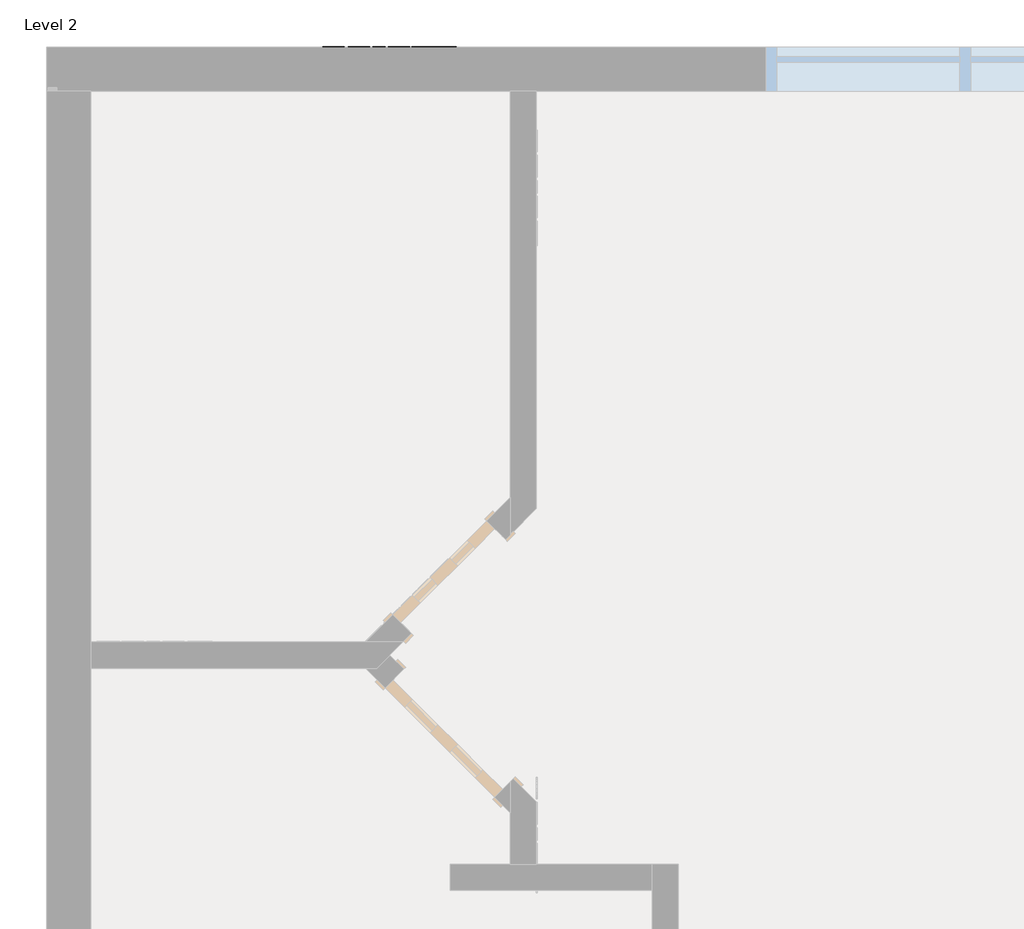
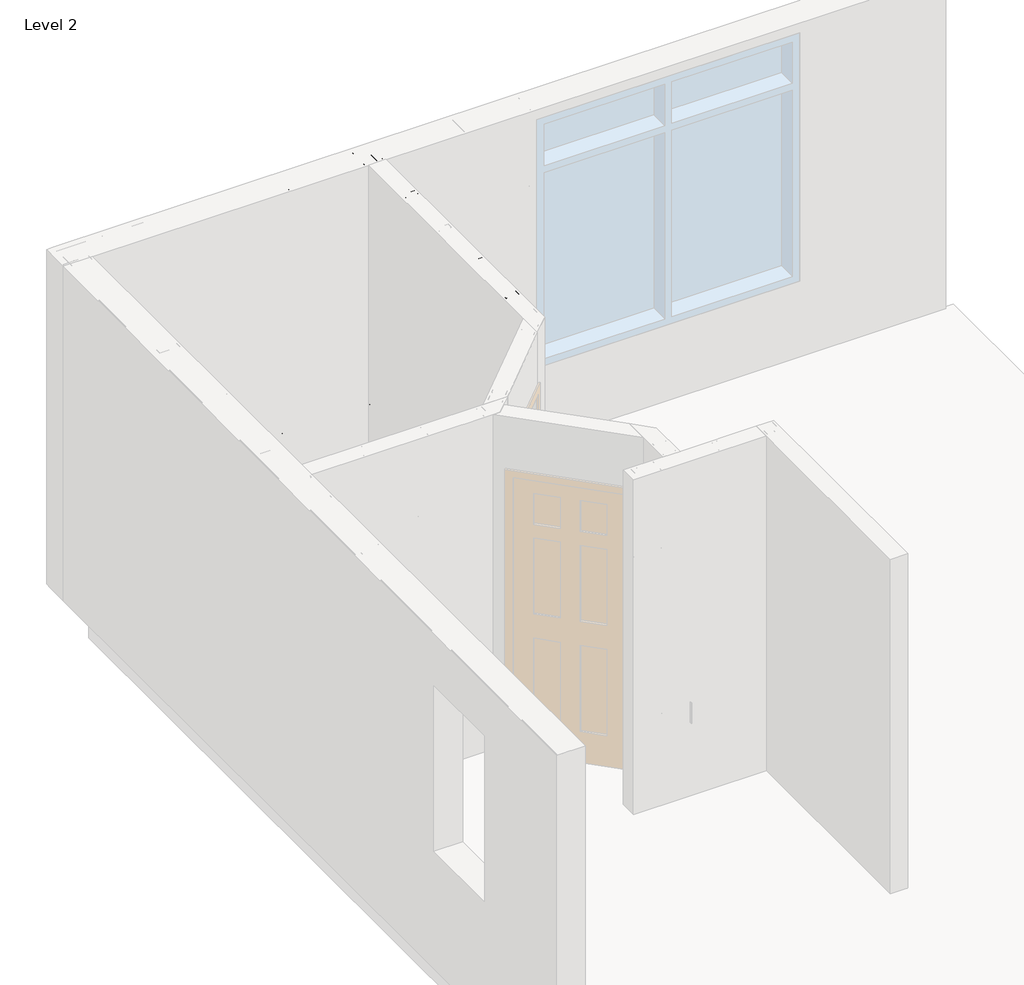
# One storey, part 35 of 46: 8 columns, 1 fastener.
"""IFC4 building model written with IfcOpenShell, lengths in millimetres."""

from ifc_helpers import new_model, si_unit, point, frame, origin, place, context, project, spatial, circle_curve, ellipse_curve, trimmed, transform, mapped, element, save
from ifc_brep_helpers import plane_surface, extruded_surface, advanced_brep
from components import column_550nf150_43_e978d052, panellabel_521c0b09

model = new_model("IFC4")

# Units and contexts
model_context = context("Model", 3, world=origin())
ifc_project = project(units=[si_unit("LENGTHUNIT", "METRE", prefix="MILLI")], contexts=[model_context])

# Site, building, storey
site = spatial("IfcSite", under=ifc_project)
building = spatial("IfcBuilding", under=site)
storey = spatial("IfcBuildingStorey", under=building, Name="Level 2", Elevation=3060.7)

# Columns
placement = place(None, origin())
element("IfcColumn", 1, ObjectType="BIMSF-SSMA-S-Column : 350NF150-33", at=placement, inside=storey, context=model_context, shape_type="AdvancedBrep", body=[
    advanced_brep(
    [(-13168.4413349, 13865.352221, 3061.5929687), (-13079.5413349, 13865.352221, 3061.5929687), (-13079.5413349, 13827.252221, 3061.5929687), (-13085.1988507, 13827.252221, 3061.5929687), (-13085.1988507, 13828.1345367, 3061.5929687), (-13080.4236507, 13828.1345367, 3061.5929687), (-13080.4236507, 13864.4699052, 3061.5929687), (-13167.5590191, 13864.4699052, 3061.5929687), (-13167.5590191, 13828.1345367, 3061.5929687), (-13162.7838191, 13828.1345367, 3061.5929687), (-13162.7838191, 13827.252221, 3061.5929687), (-13168.4413349, 13827.252221, 3061.5929687), (-13168.4413349, 13865.352221, 5523.6070313), (-13079.5413349, 13865.352221, 5523.6070313), (-13111.2913349, 13865.352221, 3671.1929688), (-13136.6913349, 13865.352221, 3671.1929688), (-13111.2913349, 13865.352221, 4890.3929687), (-13136.6913349, 13865.352221, 4890.3929687), (-13079.5413349, 13827.252221, 5523.6070313), (-13085.1988507, 13827.252221, 5523.6070313), (-13085.1988507, 13828.1345367, 5523.6070313), (-13080.4236507, 13828.1345367, 5523.6070313), (-13080.4236507, 13864.4699052, 5523.6070313), (-13167.5590191, 13864.4699052, 5523.6070313), (-13136.6913349, 13864.4699052, 3671.1929688), (-13111.2913349, 13864.4699052, 3671.1929688), (-13136.6913349, 13864.4699052, 4890.3929687), (-13111.2913349, 13864.4699052, 4890.3929687), (-13167.5590191, 13828.1345367, 5523.6070313), (-13162.7838191, 13828.1345367, 5523.6070313), (-13162.7838191, 13827.252221, 5523.6070313), (-13168.4413349, 13827.252221, 5523.6070313)],
    [
        (0, 1),
        (1, 2),
        (2, 3),
        (3, 4),
        (4, 5),
        (5, 6),
        (6, 7),
        (7, 8),
        (8, 9),
        (9, 10),
        (10, 11),
        (11, 0),
        (0, 12),
        (12, 13),
        (13, 1),
        (14, 15, circle_curve(frame((-13123.9913349, 13865.352221, 3671.1929688), z_axis=(0.0, -1.0, 0.0), x_axis=(1.0, 0.0, 0.0)), 12.7)),
        (15, 14, circle_curve(frame((-13123.9913349, 13865.352221, 3671.1929688), z_axis=(0.0, -1.0, 0.0), x_axis=(1.0, 0.0, 0.0)), 12.7)),
        (16, 17, circle_curve(frame((-13123.9913349, 13865.352221, 4890.3929687), z_axis=(0.0, -1.0, 0.0), x_axis=(1.0, 0.0, 0.0)), 12.7)),
        (17, 16, circle_curve(frame((-13123.9913349, 13865.352221, 4890.3929687), z_axis=(0.0, -1.0, 0.0), x_axis=(1.0, 0.0, 0.0)), 12.7)),
        (13, 18),
        (18, 2),
        (18, 19),
        (19, 3),
        (19, 20),
        (20, 4),
        (20, 21),
        (21, 5),
        (21, 22),
        (22, 6),
        (22, 23),
        (23, 7),
        (24, 25, circle_curve(frame((-13123.9913349, 13864.4699052, 3671.1929688), z_axis=(0.0, 1.0, 0.0), x_axis=(1.0, 0.0, 0.0)), 12.7)),
        (25, 24, circle_curve(frame((-13123.9913349, 13864.4699052, 3671.1929688), z_axis=(0.0, 1.0, 0.0), x_axis=(1.0, 0.0, 0.0)), 12.7)),
        (26, 27, circle_curve(frame((-13123.9913349, 13864.4699052, 4890.3929687), z_axis=(0.0, 1.0, 0.0), x_axis=(1.0, 0.0, 0.0)), 12.7)),
        (27, 26, circle_curve(frame((-13123.9913349, 13864.4699052, 4890.3929687), z_axis=(0.0, 1.0, 0.0), x_axis=(1.0, 0.0, 0.0)), 12.7)),
        (23, 28),
        (28, 8),
        (28, 29),
        (29, 9),
        (29, 30),
        (30, 10),
        (30, 31),
        (31, 11),
        (31, 12),
        (24, 15),
        (14, 25),
        (26, 17),
        (16, 27),
    ],
    [
        plane_surface(frame((-13168.4413349, 13865.352221, 3061.5929687), z_axis=(0.0, 0.0, -1.0), x_axis=(0.0, 1.0, 0.0))),
        plane_surface(frame((-13079.5413349, 13865.352221, 5523.6070313), z_axis=(0.0, 1.0, 0.0), x_axis=(0.0, 0.0, -1.0))),
        plane_surface(frame((-13079.5413349, 13827.252221, 5523.6070313), z_axis=(1.0, 0.0, 0.0), x_axis=(0.0, 0.0, -1.0))),
        plane_surface(frame((-13085.1988507, 13827.252221, 5523.6070313), z_axis=(0.0, -1.0, 0.0), x_axis=(0.0, 0.0, -1.0))),
        plane_surface(frame((-13085.1988507, 13828.1345367, 5523.6070313), z_axis=(-1.0, 0.0, 0.0), x_axis=(0.0, 0.0, -1.0))),
        plane_surface(frame((-13080.4236507, 13828.1345367, 5523.6070313), z_axis=(0.0, 1.0, 0.0), x_axis=(0.0, 0.0, -1.0))),
        plane_surface(frame((-13080.4236507, 13864.4699052, 5523.6070313), z_axis=(-1.0, 0.0, 0.0), x_axis=(0.0, 0.0, -1.0))),
        plane_surface(frame((-13167.5590191, 13864.4699052, 5523.6070313), z_axis=(0.0, -1.0, 0.0), x_axis=(0.0, 0.0, -1.0))),
        plane_surface(frame((-13167.5590191, 13828.1345367, 5523.6070313), z_axis=(1.0, 0.0, 0.0), x_axis=(0.0, 0.0, -1.0))),
        plane_surface(frame((-13162.7838191, 13828.1345367, 5523.6070313), z_axis=(0.0, 1.0, 0.0), x_axis=(0.0, 0.0, -1.0))),
        plane_surface(frame((-13162.7838191, 13827.252221, 5523.6070313), z_axis=(1.0, 0.0, 0.0), x_axis=(0.0, 0.0, -1.0))),
        plane_surface(frame((-13168.4413349, 13827.252221, 5523.6070313), z_axis=(0.0, -1.0, 0.0), x_axis=(0.0, 0.0, -1.0))),
        plane_surface(frame((-13168.4413349, 13865.352221, 5523.6070313), z_axis=(-1.0, 0.0, 0.0), x_axis=(0.0, 0.0, -1.0))),
        plane_surface(frame((-13168.4413349, 13865.352221, 5523.6070313), z_axis=(0.0, 0.0, 1.0), x_axis=(0.0, -1.0, 0.0))),
        extruded_surface(trimmed(ellipse_curve(frame((-13123.9913349, 11384.2881585, 3671.1929688), z_axis=(0.0, 1.0, 0.0), x_axis=(1.0, 0.0, 0.0)), 12.7, 12.7), [point((-13136.6913349, 11384.2881585, 3671.1929688))], [point((-13111.2913349, 11384.2881585, 3671.1929688))], True, "CARTESIAN"), (0.0, -4924.028125, 0.0), 4924.028125),
        extruded_surface(trimmed(ellipse_curve(frame((-13123.9913349, 11384.2881585, 3671.1929688), z_axis=(0.0, 1.0, 0.0), x_axis=(1.0, 0.0, 0.0)), 12.7, 12.7), [point((-13111.2913349, 11384.2881585, 3671.1929688))], [point((-13136.6913349, 11384.2881585, 3671.1929688))], True, "CARTESIAN"), (0.0, -4924.028125, 0.0), 4924.028125),
        extruded_surface(trimmed(ellipse_curve(frame((-13123.9913349, 11384.2881585, 4890.3929687), z_axis=(0.0, 1.0, 0.0), x_axis=(1.0, 0.0, 0.0)), 12.7, 12.7), [point((-13136.6913349, 11384.2881585, 4890.3929687))], [point((-13111.2913349, 11384.2881585, 4890.3929687))], True, "CARTESIAN"), (0.0, -4924.028125, 0.0), 4924.028125),
        extruded_surface(trimmed(ellipse_curve(frame((-13123.9913349, 11384.2881585, 4890.3929687), z_axis=(0.0, 1.0, 0.0), x_axis=(1.0, 0.0, 0.0)), 12.7, 12.7), [point((-13111.2913349, 11384.2881585, 4890.3929687))], [point((-13136.6913349, 11384.2881585, 4890.3929687))], True, "CARTESIAN"), (0.0, -4924.028125, 0.0), 4924.028125),
    ],
    [
        (0, [[1, 2, 3, 4, 5, 6, 7, 8, 9, 10, 11, 12]]),
        (1, [[-1, 13, 14, 15], [16, 17], [18, 19]]),
        (2, [[-2, -15, 20, 21]]),
        (3, [[-3, -21, 22, 23]]),
        (4, [[-4, -23, 24, 25]]),
        (5, [[-5, -25, 26, 27]]),
        (6, [[-6, -27, 28, 29]]),
        (7, [[-7, -29, 30, 31], [32, 33], [34, 35]]),
        (8, [[-8, -31, 36, 37]]),
        (9, [[-9, -37, 38, 39]]),
        (10, [[-10, -39, 40, 41]]),
        (11, [[-11, -41, 42, 43]]),
        (12, [[-12, -43, 44, -13]]),
        (13, [[-14, -44, -42, -40, -38, -36, -30, -28, -26, -24, -22, -20]]),
        (14, [[45, -16, 46, -32]]),
        (15, [[-45, -33, -46, -17]]),
        (16, [[47, -18, 48, -34]]),
        (17, [[-47, -35, -48, -19]]),
    ],
),
])
element("IfcColumn", 2, ObjectType="BIMSF-SSMA-S-Column : 350NF150-33", at=placement, inside=storey, context=model_context, shape_type="AdvancedBrep", body=[
    advanced_brep(
    [(-13168.4413349, 13478.002221, 3061.5929687), (-13079.5413349, 13478.002221, 3061.5929687), (-13079.5413349, 13439.902221, 3061.5929687), (-13085.1988507, 13439.902221, 3061.5929687), (-13085.1988507, 13440.7845367, 3061.5929687), (-13080.4236507, 13440.7845367, 3061.5929687), (-13080.4236507, 13477.1199052, 3061.5929687), (-13167.5590191, 13477.1199052, 3061.5929687), (-13167.5590191, 13440.7845367, 3061.5929687), (-13162.7838191, 13440.7845367, 3061.5929687), (-13162.7838191, 13439.902221, 3061.5929687), (-13168.4413349, 13439.902221, 3061.5929687), (-13168.4413349, 13478.002221, 5523.6070313), (-13079.5413349, 13478.002221, 5523.6070313), (-13111.2913349, 13478.002221, 3671.1929688), (-13136.6913349, 13478.002221, 3671.1929688), (-13111.2913349, 13478.002221, 4890.3929687), (-13136.6913349, 13478.002221, 4890.3929687), (-13079.5413349, 13439.902221, 5523.6070313), (-13085.1988507, 13439.902221, 5523.6070313), (-13085.1988507, 13440.7845367, 5523.6070313), (-13080.4236507, 13440.7845367, 5523.6070313), (-13080.4236507, 13477.1199052, 5523.6070313), (-13167.5590191, 13477.1199052, 5523.6070313), (-13136.6913349, 13477.1199052, 3671.1929688), (-13111.2913349, 13477.1199052, 3671.1929688), (-13136.6913349, 13477.1199052, 4890.3929687), (-13111.2913349, 13477.1199052, 4890.3929687), (-13167.5590191, 13440.7845367, 5523.6070313), (-13162.7838191, 13440.7845367, 5523.6070313), (-13162.7838191, 13439.902221, 5523.6070313), (-13168.4413349, 13439.902221, 5523.6070313)],
    [
        (0, 1),
        (1, 2),
        (2, 3),
        (3, 4),
        (4, 5),
        (5, 6),
        (6, 7),
        (7, 8),
        (8, 9),
        (9, 10),
        (10, 11),
        (11, 0),
        (0, 12),
        (12, 13),
        (13, 1),
        (14, 15, circle_curve(frame((-13123.9913349, 13478.002221, 3671.1929687), z_axis=(0.0, -1.0, 0.0), x_axis=(1.0, 0.0, 0.0)), 12.7)),
        (15, 14, circle_curve(frame((-13123.9913349, 13478.002221, 3671.1929687), z_axis=(0.0, -1.0, 0.0), x_axis=(1.0, 0.0, 0.0)), 12.7)),
        (16, 17, circle_curve(frame((-13123.9913349, 13478.002221, 4890.3929687), z_axis=(0.0, -1.0, 0.0), x_axis=(1.0, 0.0, 0.0)), 12.7)),
        (17, 16, circle_curve(frame((-13123.9913349, 13478.002221, 4890.3929687), z_axis=(0.0, -1.0, 0.0), x_axis=(1.0, 0.0, 0.0)), 12.7)),
        (13, 18),
        (18, 2),
        (18, 19),
        (19, 3),
        (19, 20),
        (20, 4),
        (20, 21),
        (21, 5),
        (21, 22),
        (22, 6),
        (22, 23),
        (23, 7),
        (24, 25, circle_curve(frame((-13123.9913349, 13477.1199052, 3671.1929688), z_axis=(0.0, 1.0, 0.0), x_axis=(1.0, 0.0, 0.0)), 12.7)),
        (25, 24, circle_curve(frame((-13123.9913349, 13477.1199052, 3671.1929688), z_axis=(0.0, 1.0, 0.0), x_axis=(1.0, 0.0, 0.0)), 12.7)),
        (26, 27, circle_curve(frame((-13123.9913349, 13477.1199052, 4890.3929687), z_axis=(0.0, 1.0, 0.0), x_axis=(1.0, 0.0, 0.0)), 12.7)),
        (27, 26, circle_curve(frame((-13123.9913349, 13477.1199052, 4890.3929687), z_axis=(0.0, 1.0, 0.0), x_axis=(1.0, 0.0, 0.0)), 12.7)),
        (23, 28),
        (28, 8),
        (28, 29),
        (29, 9),
        (29, 30),
        (30, 10),
        (30, 31),
        (31, 11),
        (31, 12),
        (24, 15),
        (14, 25),
        (26, 17),
        (16, 27),
    ],
    [
        plane_surface(frame((-13168.4413349, 13478.002221, 3061.5929687), z_axis=(0.0, 0.0, -1.0), x_axis=(0.0, 1.0, 0.0))),
        plane_surface(frame((-13079.5413349, 13478.002221, 5523.6070313), z_axis=(0.0, 1.0, 0.0), x_axis=(0.0, 0.0, -1.0))),
        plane_surface(frame((-13079.5413349, 13439.902221, 5523.6070313), z_axis=(1.0, 0.0, 0.0), x_axis=(0.0, 0.0, -1.0))),
        plane_surface(frame((-13085.1988507, 13439.902221, 5523.6070313), z_axis=(0.0, -1.0, 0.0), x_axis=(0.0, 0.0, -1.0))),
        plane_surface(frame((-13085.1988507, 13440.7845367, 5523.6070313), z_axis=(-1.0, 0.0, 0.0), x_axis=(0.0, 0.0, -1.0))),
        plane_surface(frame((-13080.4236507, 13440.7845367, 5523.6070313), z_axis=(0.0, 1.0, 0.0), x_axis=(0.0, 0.0, -1.0))),
        plane_surface(frame((-13080.4236507, 13477.1199052, 5523.6070313), z_axis=(-1.0, 0.0, 0.0), x_axis=(0.0, 0.0, -1.0))),
        plane_surface(frame((-13167.5590191, 13477.1199052, 5523.6070313), z_axis=(0.0, -1.0, 0.0), x_axis=(0.0, 0.0, -1.0))),
        plane_surface(frame((-13167.5590191, 13440.7845367, 5523.6070313), z_axis=(1.0, 0.0, 0.0), x_axis=(0.0, 0.0, -1.0))),
        plane_surface(frame((-13162.7838191, 13440.7845367, 5523.6070313), z_axis=(0.0, 1.0, 0.0), x_axis=(0.0, 0.0, -1.0))),
        plane_surface(frame((-13162.7838191, 13439.902221, 5523.6070313), z_axis=(1.0, 0.0, 0.0), x_axis=(0.0, 0.0, -1.0))),
        plane_surface(frame((-13168.4413349, 13439.902221, 5523.6070313), z_axis=(0.0, -1.0, 0.0), x_axis=(0.0, 0.0, -1.0))),
        plane_surface(frame((-13168.4413349, 13478.002221, 5523.6070313), z_axis=(-1.0, 0.0, 0.0), x_axis=(0.0, 0.0, -1.0))),
        plane_surface(frame((-13168.4413349, 13478.002221, 5523.6070313), z_axis=(0.0, 0.0, 1.0), x_axis=(0.0, -1.0, 0.0))),
        extruded_surface(trimmed(ellipse_curve(frame((-13123.9913349, 10996.9381585, 3671.1929688), z_axis=(0.0, 1.0, 0.0), x_axis=(1.0, 0.0, 0.0)), 12.7, 12.7), [point((-13136.6913349, 10996.9381585, 3671.1929688))], [point((-13111.2913349, 10996.9381585, 3671.1929688))], True, "CARTESIAN"), (0.0, -4924.028124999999, 0.0), 4924.028124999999),
        extruded_surface(trimmed(ellipse_curve(frame((-13123.9913349, 10996.9381585, 3671.1929688), z_axis=(0.0, 1.0, 0.0), x_axis=(1.0, 0.0, 0.0)), 12.7, 12.7), [point((-13111.2913349, 10996.9381585, 3671.1929688))], [point((-13136.6913349, 10996.9381585, 3671.1929688))], True, "CARTESIAN"), (0.0, -4924.028124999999, 0.0), 4924.028124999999),
        extruded_surface(trimmed(ellipse_curve(frame((-13123.9913349, 10996.9381585, 4890.3929687), z_axis=(0.0, 1.0, 0.0), x_axis=(1.0, 0.0, 0.0)), 12.7, 12.7), [point((-13136.6913349, 10996.9381585, 4890.3929687))], [point((-13111.2913349, 10996.9381585, 4890.3929687))], True, "CARTESIAN"), (0.0, -4924.028124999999, 0.0), 4924.028124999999),
        extruded_surface(trimmed(ellipse_curve(frame((-13123.9913349, 10996.9381585, 4890.3929687), z_axis=(0.0, 1.0, 0.0), x_axis=(1.0, 0.0, 0.0)), 12.7, 12.7), [point((-13111.2913349, 10996.9381585, 4890.3929687))], [point((-13136.6913349, 10996.9381585, 4890.3929687))], True, "CARTESIAN"), (0.0, -4924.028124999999, 0.0), 4924.028124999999),
    ],
    [
        (0, [[1, 2, 3, 4, 5, 6, 7, 8, 9, 10, 11, 12]]),
        (1, [[-1, 13, 14, 15], [16, 17], [18, 19]]),
        (2, [[-2, -15, 20, 21]]),
        (3, [[-3, -21, 22, 23]]),
        (4, [[-4, -23, 24, 25]]),
        (5, [[-5, -25, 26, 27]]),
        (6, [[-6, -27, 28, 29]]),
        (7, [[-7, -29, 30, 31], [32, 33], [34, 35]]),
        (8, [[-8, -31, 36, 37]]),
        (9, [[-9, -37, 38, 39]]),
        (10, [[-10, -39, 40, 41]]),
        (11, [[-11, -41, 42, 43]]),
        (12, [[-12, -43, 44, -13]]),
        (13, [[-14, -44, -42, -40, -38, -36, -30, -28, -26, -24, -22, -20]]),
        (14, [[45, -16, 46, -32]]),
        (15, [[-45, -33, -46, -17]]),
        (16, [[47, -18, 48, -34]]),
        (17, [[-47, -35, -48, -19]]),
    ],
),
])
element("IfcColumn", 3, ObjectType="BIMSF-SSMA-S-Column : 350NF150-33", at=placement, inside=storey, context=model_context, shape_type="AdvancedBrep", body=[
    advanced_brep(
    [(-13168.4413349, 12665.202221, 3061.5929687), (-13079.5413349, 12665.202221, 3061.5929687), (-13079.5413349, 12627.102221, 3061.5929687), (-13085.1988507, 12627.102221, 3061.5929687), (-13085.1988507, 12627.9845367, 3061.5929687), (-13080.4236507, 12627.9845367, 3061.5929687), (-13080.4236507, 12664.3199052, 3061.5929687), (-13167.5590191, 12664.3199052, 3061.5929687), (-13167.5590191, 12627.9845367, 3061.5929687), (-13162.7838191, 12627.9845367, 3061.5929687), (-13162.7838191, 12627.102221, 3061.5929687), (-13168.4413349, 12627.102221, 3061.5929687), (-13168.4413349, 12665.202221, 5523.6070313), (-13079.5413349, 12665.202221, 5523.6070313), (-13111.2913349, 12665.202221, 3671.1929688), (-13136.6913349, 12665.202221, 3671.1929688), (-13111.2913349, 12665.202221, 4890.3929687), (-13136.6913349, 12665.202221, 4890.3929687), (-13079.5413349, 12627.102221, 5523.6070313), (-13085.1988507, 12627.102221, 5523.6070313), (-13085.1988507, 12627.9845367, 5523.6070313), (-13080.4236507, 12627.9845367, 5523.6070313), (-13080.4236507, 12664.3199052, 5523.6070313), (-13167.5590191, 12664.3199052, 5523.6070313), (-13136.6913349, 12664.3199052, 3671.1929688), (-13111.2913349, 12664.3199052, 3671.1929688), (-13136.6913349, 12664.3199052, 4890.3929687), (-13111.2913349, 12664.3199052, 4890.3929687), (-13167.5590191, 12627.9845367, 5523.6070313), (-13162.7838191, 12627.9845367, 5523.6070313), (-13162.7838191, 12627.102221, 5523.6070313), (-13168.4413349, 12627.102221, 5523.6070313)],
    [
        (0, 1),
        (1, 2),
        (2, 3),
        (3, 4),
        (4, 5),
        (5, 6),
        (6, 7),
        (7, 8),
        (8, 9),
        (9, 10),
        (10, 11),
        (11, 0),
        (0, 12),
        (12, 13),
        (13, 1),
        (14, 15, circle_curve(frame((-13123.9913349, 12665.202221, 3671.1929688), z_axis=(0.0, -1.0, 0.0), x_axis=(1.0, 0.0, 0.0)), 12.7)),
        (15, 14, circle_curve(frame((-13123.9913349, 12665.202221, 3671.1929688), z_axis=(0.0, -1.0, 0.0), x_axis=(1.0, 0.0, 0.0)), 12.7)),
        (16, 17, circle_curve(frame((-13123.9913349, 12665.202221, 4890.3929687), z_axis=(0.0, -1.0, 0.0), x_axis=(1.0, 0.0, 0.0)), 12.7)),
        (17, 16, circle_curve(frame((-13123.9913349, 12665.202221, 4890.3929687), z_axis=(0.0, -1.0, 0.0), x_axis=(1.0, 0.0, 0.0)), 12.7)),
        (13, 18),
        (18, 2),
        (18, 19),
        (19, 3),
        (19, 20),
        (20, 4),
        (20, 21),
        (21, 5),
        (21, 22),
        (22, 6),
        (22, 23),
        (23, 7),
        (24, 25, circle_curve(frame((-13123.9913349, 12664.3199052, 3671.1929688), z_axis=(0.0, 1.0, 0.0), x_axis=(1.0, 0.0, 0.0)), 12.7)),
        (25, 24, circle_curve(frame((-13123.9913349, 12664.3199052, 3671.1929688), z_axis=(0.0, 1.0, 0.0), x_axis=(1.0, 0.0, 0.0)), 12.7)),
        (26, 27, circle_curve(frame((-13123.9913349, 12664.3199052, 4890.3929687), z_axis=(0.0, 1.0, 0.0), x_axis=(1.0, 0.0, 0.0)), 12.7)),
        (27, 26, circle_curve(frame((-13123.9913349, 12664.3199052, 4890.3929687), z_axis=(0.0, 1.0, 0.0), x_axis=(1.0, 0.0, 0.0)), 12.7)),
        (23, 28),
        (28, 8),
        (28, 29),
        (29, 9),
        (29, 30),
        (30, 10),
        (30, 31),
        (31, 11),
        (31, 12),
        (24, 15),
        (14, 25),
        (26, 17),
        (16, 27),
    ],
    [
        plane_surface(frame((-13168.4413349, 12665.202221, 3061.5929687), z_axis=(0.0, 0.0, -1.0), x_axis=(0.0, 1.0, 0.0))),
        plane_surface(frame((-13079.5413349, 12665.202221, 5523.6070313), z_axis=(0.0, 1.0, 0.0), x_axis=(0.0, 0.0, -1.0))),
        plane_surface(frame((-13079.5413349, 12627.102221, 5523.6070313), z_axis=(1.0, 0.0, 0.0), x_axis=(0.0, 0.0, -1.0))),
        plane_surface(frame((-13085.1988507, 12627.102221, 5523.6070313), z_axis=(0.0, -1.0, 0.0), x_axis=(0.0, 0.0, -1.0))),
        plane_surface(frame((-13085.1988507, 12627.9845367, 5523.6070313), z_axis=(-1.0, 0.0, 0.0), x_axis=(0.0, 0.0, -1.0))),
        plane_surface(frame((-13080.4236507, 12627.9845367, 5523.6070313), z_axis=(0.0, 1.0, 0.0), x_axis=(0.0, 0.0, -1.0))),
        plane_surface(frame((-13080.4236507, 12664.3199052, 5523.6070313), z_axis=(-1.0, 0.0, 0.0), x_axis=(0.0, 0.0, -1.0))),
        plane_surface(frame((-13167.5590191, 12664.3199052, 5523.6070313), z_axis=(0.0, -1.0, 0.0), x_axis=(0.0, 0.0, -1.0))),
        plane_surface(frame((-13167.5590191, 12627.9845367, 5523.6070313), z_axis=(1.0, 0.0, 0.0), x_axis=(0.0, 0.0, -1.0))),
        plane_surface(frame((-13162.7838191, 12627.9845367, 5523.6070313), z_axis=(0.0, 1.0, 0.0), x_axis=(0.0, 0.0, -1.0))),
        plane_surface(frame((-13162.7838191, 12627.102221, 5523.6070313), z_axis=(1.0, 0.0, 0.0), x_axis=(0.0, 0.0, -1.0))),
        plane_surface(frame((-13168.4413349, 12627.102221, 5523.6070313), z_axis=(0.0, -1.0, 0.0), x_axis=(0.0, 0.0, -1.0))),
        plane_surface(frame((-13168.4413349, 12665.202221, 5523.6070313), z_axis=(-1.0, 0.0, 0.0), x_axis=(0.0, 0.0, -1.0))),
        plane_surface(frame((-13168.4413349, 12665.202221, 5523.6070313), z_axis=(0.0, 0.0, 1.0), x_axis=(0.0, -1.0, 0.0))),
        extruded_surface(trimmed(ellipse_curve(frame((-13123.9913349, 10184.1381585, 3671.1929688), z_axis=(0.0, 1.0, 0.0), x_axis=(1.0, 0.0, 0.0)), 12.7, 12.7), [point((-13136.6913349, 10184.1381585, 3671.1929688))], [point((-13111.2913349, 10184.1381585, 3671.1929688))], True, "CARTESIAN"), (0.0, -4924.028125, 0.0), 4924.028125),
        extruded_surface(trimmed(ellipse_curve(frame((-13123.9913349, 10184.1381585, 3671.1929688), z_axis=(0.0, 1.0, 0.0), x_axis=(1.0, 0.0, 0.0)), 12.7, 12.7), [point((-13111.2913349, 10184.1381585, 3671.1929688))], [point((-13136.6913349, 10184.1381585, 3671.1929688))], True, "CARTESIAN"), (0.0, -4924.028125, 0.0), 4924.028125),
        extruded_surface(trimmed(ellipse_curve(frame((-13123.9913349, 10184.1381585, 4890.3929687), z_axis=(0.0, 1.0, 0.0), x_axis=(1.0, 0.0, 0.0)), 12.7, 12.7), [point((-13136.6913349, 10184.1381585, 4890.3929687))], [point((-13111.2913349, 10184.1381585, 4890.3929687))], True, "CARTESIAN"), (0.0, -4924.028125, 0.0), 4924.028125),
        extruded_surface(trimmed(ellipse_curve(frame((-13123.9913349, 10184.1381585, 4890.3929687), z_axis=(0.0, 1.0, 0.0), x_axis=(1.0, 0.0, 0.0)), 12.7, 12.7), [point((-13111.2913349, 10184.1381585, 4890.3929687))], [point((-13136.6913349, 10184.1381585, 4890.3929687))], True, "CARTESIAN"), (0.0, -4924.028125, 0.0), 4924.028125),
    ],
    [
        (0, [[1, 2, 3, 4, 5, 6, 7, 8, 9, 10, 11, 12]]),
        (1, [[-1, 13, 14, 15], [16, 17], [18, 19]]),
        (2, [[-2, -15, 20, 21]]),
        (3, [[-3, -21, 22, 23]]),
        (4, [[-4, -23, 24, 25]]),
        (5, [[-5, -25, 26, 27]]),
        (6, [[-6, -27, 28, 29]]),
        (7, [[-7, -29, 30, 31], [32, 33], [34, 35]]),
        (8, [[-8, -31, 36, 37]]),
        (9, [[-9, -37, 38, 39]]),
        (10, [[-10, -39, 40, 41]]),
        (11, [[-11, -41, 42, 43]]),
        (12, [[-12, -43, 44, -13]]),
        (13, [[-14, -44, -42, -40, -38, -36, -30, -28, -26, -24, -22, -20]]),
        (14, [[45, -16, 46, -32]]),
        (15, [[-45, -33, -46, -17]]),
        (16, [[47, -18, 48, -34]]),
        (17, [[-47, -35, -48, -19]]),
    ],
),
])
element("IfcColumn", 4, ObjectType="BIMSF-SSMA-S-Column : 350NF150-33", at=placement, inside=storey, context=model_context, shape_type="AdvancedBrep", body=[
    advanced_brep(
    [(-13168.4413349, 12258.802221, 3061.5929687), (-13079.5413349, 12258.802221, 3061.5929687), (-13079.5413349, 12220.702221, 3061.5929687), (-13085.1988507, 12220.702221, 3061.5929687), (-13085.1988507, 12221.5845367, 3061.5929687), (-13080.4236507, 12221.5845367, 3061.5929687), (-13080.4236507, 12257.9199052, 3061.5929687), (-13167.5590191, 12257.9199052, 3061.5929687), (-13167.5590191, 12221.5845367, 3061.5929687), (-13162.7838191, 12221.5845367, 3061.5929687), (-13162.7838191, 12220.702221, 3061.5929687), (-13168.4413349, 12220.702221, 3061.5929687), (-13168.4413349, 12258.802221, 5523.6070313), (-13079.5413349, 12258.802221, 5523.6070313), (-13111.2913349, 12258.802221, 3671.1929688), (-13136.6913349, 12258.802221, 3671.1929688), (-13111.2913349, 12258.802221, 4890.3929687), (-13136.6913349, 12258.802221, 4890.3929687), (-13079.5413349, 12220.702221, 5523.6070313), (-13085.1988507, 12220.702221, 5523.6070313), (-13085.1988507, 12221.5845367, 5523.6070313), (-13080.4236507, 12221.5845367, 5523.6070313), (-13080.4236507, 12257.9199052, 5523.6070313), (-13167.5590191, 12257.9199052, 5523.6070313), (-13136.6913349, 12257.9199052, 3671.1929688), (-13111.2913349, 12257.9199052, 3671.1929688), (-13136.6913349, 12257.9199052, 4890.3929687), (-13111.2913349, 12257.9199052, 4890.3929687), (-13167.5590191, 12221.5845367, 5523.6070313), (-13162.7838191, 12221.5845367, 5523.6070313), (-13162.7838191, 12220.702221, 5523.6070313), (-13168.4413349, 12220.702221, 5523.6070313)],
    [
        (0, 1),
        (1, 2),
        (2, 3),
        (3, 4),
        (4, 5),
        (5, 6),
        (6, 7),
        (7, 8),
        (8, 9),
        (9, 10),
        (10, 11),
        (11, 0),
        (0, 12),
        (12, 13),
        (13, 1),
        (14, 15, circle_curve(frame((-13123.9913349, 12258.802221, 3671.1929687), z_axis=(0.0, -1.0, 0.0), x_axis=(1.0, 0.0, 0.0)), 12.7)),
        (15, 14, circle_curve(frame((-13123.9913349, 12258.802221, 3671.1929687), z_axis=(0.0, -1.0, 0.0), x_axis=(1.0, 0.0, 0.0)), 12.7)),
        (16, 17, circle_curve(frame((-13123.9913349, 12258.802221, 4890.3929687), z_axis=(0.0, -1.0, 0.0), x_axis=(1.0, 0.0, 0.0)), 12.7)),
        (17, 16, circle_curve(frame((-13123.9913349, 12258.802221, 4890.3929687), z_axis=(0.0, -1.0, 0.0), x_axis=(1.0, 0.0, 0.0)), 12.7)),
        (13, 18),
        (18, 2),
        (18, 19),
        (19, 3),
        (19, 20),
        (20, 4),
        (20, 21),
        (21, 5),
        (21, 22),
        (22, 6),
        (22, 23),
        (23, 7),
        (24, 25, circle_curve(frame((-13123.9913349, 12257.9199052, 3671.1929688), z_axis=(0.0, 1.0, 0.0), x_axis=(1.0, 0.0, 0.0)), 12.7)),
        (25, 24, circle_curve(frame((-13123.9913349, 12257.9199052, 3671.1929688), z_axis=(0.0, 1.0, 0.0), x_axis=(1.0, 0.0, 0.0)), 12.7)),
        (26, 27, circle_curve(frame((-13123.9913349, 12257.9199052, 4890.3929687), z_axis=(0.0, 1.0, 0.0), x_axis=(1.0, 0.0, 0.0)), 12.7)),
        (27, 26, circle_curve(frame((-13123.9913349, 12257.9199052, 4890.3929687), z_axis=(0.0, 1.0, 0.0), x_axis=(1.0, 0.0, 0.0)), 12.7)),
        (23, 28),
        (28, 8),
        (28, 29),
        (29, 9),
        (29, 30),
        (30, 10),
        (30, 31),
        (31, 11),
        (31, 12),
        (24, 15),
        (14, 25),
        (26, 17),
        (16, 27),
    ],
    [
        plane_surface(frame((-13168.4413349, 12258.802221, 3061.5929687), z_axis=(0.0, 0.0, -1.0), x_axis=(0.0, 1.0, 0.0))),
        plane_surface(frame((-13079.5413349, 12258.802221, 5523.6070313), z_axis=(0.0, 1.0, 0.0), x_axis=(0.0, 0.0, -1.0))),
        plane_surface(frame((-13079.5413349, 12220.702221, 5523.6070313), z_axis=(1.0, 0.0, 0.0), x_axis=(0.0, 0.0, -1.0))),
        plane_surface(frame((-13085.1988507, 12220.702221, 5523.6070313), z_axis=(0.0, -1.0, 0.0), x_axis=(0.0, 0.0, -1.0))),
        plane_surface(frame((-13085.1988507, 12221.5845367, 5523.6070313), z_axis=(-1.0, 0.0, 0.0), x_axis=(0.0, 0.0, -1.0))),
        plane_surface(frame((-13080.4236507, 12221.5845367, 5523.6070313), z_axis=(0.0, 1.0, 0.0), x_axis=(0.0, 0.0, -1.0))),
        plane_surface(frame((-13080.4236507, 12257.9199052, 5523.6070313), z_axis=(-1.0, 0.0, 0.0), x_axis=(0.0, 0.0, -1.0))),
        plane_surface(frame((-13167.5590191, 12257.9199052, 5523.6070313), z_axis=(0.0, -1.0, 0.0), x_axis=(0.0, 0.0, -1.0))),
        plane_surface(frame((-13167.5590191, 12221.5845367, 5523.6070313), z_axis=(1.0, 0.0, 0.0), x_axis=(0.0, 0.0, -1.0))),
        plane_surface(frame((-13162.7838191, 12221.5845367, 5523.6070313), z_axis=(0.0, 1.0, 0.0), x_axis=(0.0, 0.0, -1.0))),
        plane_surface(frame((-13162.7838191, 12220.702221, 5523.6070313), z_axis=(1.0, 0.0, 0.0), x_axis=(0.0, 0.0, -1.0))),
        plane_surface(frame((-13168.4413349, 12220.702221, 5523.6070313), z_axis=(0.0, -1.0, 0.0), x_axis=(0.0, 0.0, -1.0))),
        plane_surface(frame((-13168.4413349, 12258.802221, 5523.6070313), z_axis=(-1.0, 0.0, 0.0), x_axis=(0.0, 0.0, -1.0))),
        plane_surface(frame((-13168.4413349, 12258.802221, 5523.6070313), z_axis=(0.0, 0.0, 1.0), x_axis=(0.0, -1.0, 0.0))),
        extruded_surface(trimmed(ellipse_curve(frame((-13123.9913349, 9777.7381585, 3671.1929688), z_axis=(0.0, 1.0, 0.0), x_axis=(1.0, 0.0, 0.0)), 12.7, 12.7), [point((-13136.6913349, 9777.7381585, 3671.1929688))], [point((-13111.2913349, 9777.7381585, 3671.1929688))], True, "CARTESIAN"), (0.0, -4924.028125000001, 0.0), 4924.028125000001),
        extruded_surface(trimmed(ellipse_curve(frame((-13123.9913349, 9777.7381585, 3671.1929688), z_axis=(0.0, 1.0, 0.0), x_axis=(1.0, 0.0, 0.0)), 12.7, 12.7), [point((-13111.2913349, 9777.7381585, 3671.1929688))], [point((-13136.6913349, 9777.7381585, 3671.1929688))], True, "CARTESIAN"), (0.0, -4924.028125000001, 0.0), 4924.028125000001),
        extruded_surface(trimmed(ellipse_curve(frame((-13123.9913349, 9777.7381585, 4890.3929687), z_axis=(0.0, 1.0, 0.0), x_axis=(1.0, 0.0, 0.0)), 12.7, 12.7), [point((-13136.6913349, 9777.7381585, 4890.3929687))], [point((-13111.2913349, 9777.7381585, 4890.3929687))], True, "CARTESIAN"), (0.0, -4924.028125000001, 0.0), 4924.028125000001),
        extruded_surface(trimmed(ellipse_curve(frame((-13123.9913349, 9777.7381585, 4890.3929687), z_axis=(0.0, 1.0, 0.0), x_axis=(1.0, 0.0, 0.0)), 12.7, 12.7), [point((-13111.2913349, 9777.7381585, 4890.3929687))], [point((-13136.6913349, 9777.7381585, 4890.3929687))], True, "CARTESIAN"), (0.0, -4924.028125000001, 0.0), 4924.028125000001),
    ],
    [
        (0, [[1, 2, 3, 4, 5, 6, 7, 8, 9, 10, 11, 12]]),
        (1, [[-1, 13, 14, 15], [16, 17], [18, 19]]),
        (2, [[-2, -15, 20, 21]]),
        (3, [[-3, -21, 22, 23]]),
        (4, [[-4, -23, 24, 25]]),
        (5, [[-5, -25, 26, 27]]),
        (6, [[-6, -27, 28, 29]]),
        (7, [[-7, -29, 30, 31], [32, 33], [34, 35]]),
        (8, [[-8, -31, 36, 37]]),
        (9, [[-9, -37, 38, 39]]),
        (10, [[-10, -39, 40, 41]]),
        (11, [[-11, -41, 42, 43]]),
        (12, [[-12, -43, 44, -13]]),
        (13, [[-14, -44, -42, -40, -38, -36, -30, -28, -26, -24, -22, -20]]),
        (14, [[45, -16, 46, -32]]),
        (15, [[-45, -33, -46, -17]]),
        (16, [[47, -18, 48, -34]]),
        (17, [[-47, -35, -48, -19]]),
    ],
),
])
element("IfcColumn", 5, ObjectType="BIMSF-SSMA-S-Column : 550NF150-43", at=placement, inside=storey, context=model_context, shape_type="AdvancedBrep", body=[
    advanced_brep(
    [(-13729.9202411, 13865.352221, 3061.5929687), (-13729.9202411, 14005.052221, 3061.5929687), (-13691.8202411, 14005.052221, 3061.5929687), (-13691.8202411, 13999.1273367, 3061.5929687), (-13692.9699253, 13999.1273367, 3061.5929687), (-13692.9699253, 14003.9025367, 3061.5929687), (-13728.7705569, 14003.9025367, 3061.5929687), (-13728.7705569, 13866.5019052, 3061.5929687), (-13692.9699253, 13866.5019052, 3061.5929687), (-13692.9699253, 13871.2771052, 3061.5929687), (-13691.8202411, 13871.2771052, 3061.5929687), (-13691.8202411, 13865.352221, 3061.5929687), (-13729.9202411, 13865.352221, 5523.6070313), (-13729.9202411, 14005.052221, 5523.6070313), (-13729.9202411, 13947.902221, 3671.1929688), (-13729.9202411, 13922.502221, 3671.1929688), (-13729.9202411, 13947.902221, 4890.3929687), (-13729.9202411, 13922.502221, 4890.3929687), (-13691.8202411, 14005.052221, 5523.6070313), (-13691.8202411, 13999.1273367, 5523.6070313), (-13692.9699253, 13999.1273367, 5523.6070313), (-13692.9699253, 14003.9025367, 5523.6070313), (-13728.7705569, 14003.9025367, 5523.6070313), (-13728.7705569, 13866.5019052, 5523.6070313), (-13728.7705569, 13922.502221, 3671.1929688), (-13728.7705569, 13947.902221, 3671.1929688), (-13728.7705569, 13922.502221, 4890.3929687), (-13728.7705569, 13947.902221, 4890.3929687), (-13692.9699253, 13866.5019052, 5523.6070313), (-13692.9699253, 13871.2771052, 5523.6070313), (-13691.8202411, 13871.2771052, 5523.6070313), (-13691.8202411, 13865.352221, 5523.6070313)],
    [
        (0, 1),
        (1, 2),
        (2, 3),
        (3, 4),
        (4, 5),
        (5, 6),
        (6, 7),
        (7, 8),
        (8, 9),
        (9, 10),
        (10, 11),
        (11, 0),
        (0, 12),
        (12, 13),
        (13, 1),
        (14, 15, circle_curve(frame((-13729.9202411, 13935.202221, 3671.1929687), z_axis=(1.0, 0.0, 0.0), x_axis=(0.0, 1.0, 0.0)), 12.7)),
        (15, 14, circle_curve(frame((-13729.9202411, 13935.202221, 3671.1929687), z_axis=(1.0, 0.0, 0.0), x_axis=(0.0, 1.0, 0.0)), 12.7)),
        (16, 17, circle_curve(frame((-13729.9202411, 13935.202221, 4890.3929687), z_axis=(1.0, 0.0, 0.0), x_axis=(0.0, 1.0, 0.0)), 12.7)),
        (17, 16, circle_curve(frame((-13729.9202411, 13935.202221, 4890.3929687), z_axis=(1.0, 0.0, 0.0), x_axis=(0.0, 1.0, 0.0)), 12.7)),
        (13, 18),
        (18, 2),
        (18, 19),
        (19, 3),
        (19, 20),
        (20, 4),
        (20, 21),
        (21, 5),
        (21, 22),
        (22, 6),
        (22, 23),
        (23, 7),
        (24, 25, circle_curve(frame((-13728.7705569, 13935.202221, 3671.1929687), z_axis=(-1.0, 0.0, 0.0), x_axis=(0.0, 1.0, 0.0)), 12.7)),
        (25, 24, circle_curve(frame((-13728.7705569, 13935.202221, 3671.1929687), z_axis=(-1.0, 0.0, 0.0), x_axis=(0.0, 1.0, 0.0)), 12.7)),
        (26, 27, circle_curve(frame((-13728.7705569, 13935.202221, 4890.3929687), z_axis=(-1.0, 0.0, 0.0), x_axis=(0.0, 1.0, 0.0)), 12.7)),
        (27, 26, circle_curve(frame((-13728.7705569, 13935.202221, 4890.3929687), z_axis=(-1.0, 0.0, 0.0), x_axis=(0.0, 1.0, 0.0)), 12.7)),
        (23, 28),
        (28, 8),
        (28, 29),
        (29, 9),
        (29, 30),
        (30, 10),
        (30, 31),
        (31, 11),
        (31, 12),
        (24, 15),
        (14, 25),
        (26, 17),
        (16, 27),
    ],
    [
        plane_surface(frame((-13729.9202411, 13865.352221, 3061.5929687), z_axis=(0.0, 0.0, -1.0), x_axis=(-1.0, 0.0, 0.0))),
        plane_surface(frame((-13729.9202411, 14005.052221, 5523.6070313), z_axis=(-1.0, 0.0, 0.0), x_axis=(0.0, 0.0, -1.0))),
        plane_surface(frame((-13691.8202411, 14005.052221, 5523.6070313), z_axis=(0.0, 1.0, 0.0), x_axis=(0.0, 0.0, -1.0))),
        plane_surface(frame((-13691.8202411, 13999.1273367, 5523.6070313), z_axis=(1.0, 0.0, 0.0), x_axis=(0.0, 0.0, -1.0))),
        plane_surface(frame((-13692.9699253, 13999.1273367, 5523.6070313), z_axis=(0.0, -1.0, 0.0), x_axis=(0.0, 0.0, -1.0))),
        plane_surface(frame((-13692.9699253, 14003.9025367, 5523.6070313), z_axis=(-1.0, 0.0, 0.0), x_axis=(0.0, 0.0, -1.0))),
        plane_surface(frame((-13728.7705569, 14003.9025367, 5523.6070313), z_axis=(0.0, -1.0, 0.0), x_axis=(0.0, 0.0, -1.0))),
        plane_surface(frame((-13728.7705569, 13866.5019052, 5523.6070313), z_axis=(1.0, 0.0, 0.0), x_axis=(0.0, 0.0, -1.0))),
        plane_surface(frame((-13692.9699253, 13866.5019052, 5523.6070313), z_axis=(0.0, 1.0, 0.0), x_axis=(0.0, 0.0, -1.0))),
        plane_surface(frame((-13692.9699253, 13871.2771052, 5523.6070313), z_axis=(-1.0, 0.0, 0.0), x_axis=(0.0, 0.0, -1.0))),
        plane_surface(frame((-13691.8202411, 13871.2771052, 5523.6070313), z_axis=(0.0, 1.0, 0.0), x_axis=(0.0, 0.0, -1.0))),
        plane_surface(frame((-13691.8202411, 13865.352221, 5523.6070313), z_axis=(1.0, 0.0, 0.0), x_axis=(0.0, 0.0, -1.0))),
        plane_surface(frame((-13729.9202411, 13865.352221, 5523.6070313), z_axis=(0.0, -1.0, 0.0), x_axis=(0.0, 0.0, -1.0))),
        plane_surface(frame((-13729.9202411, 13865.352221, 5523.6070313), z_axis=(0.0, 0.0, 1.0), x_axis=(1.0, 0.0, 0.0))),
        extruded_surface(trimmed(ellipse_curve(frame((-11248.8561786, 13935.202221, 3671.1929688), z_axis=(-1.0, 0.0, 0.0), x_axis=(0.0, 1.0, 0.0)), 12.7, 12.7), [point((-11248.8561786, 13922.502221, 3671.1929688))], [point((-11248.8561786, 13947.902221, 3671.1929688))], True, "CARTESIAN"), (4924.028124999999, 0.0, 0.0), 4924.028124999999),
        extruded_surface(trimmed(ellipse_curve(frame((-11248.8561786, 13935.202221, 3671.1929688), z_axis=(-1.0, 0.0, 0.0), x_axis=(0.0, 1.0, 0.0)), 12.7, 12.7), [point((-11248.8561786, 13947.902221, 3671.1929688))], [point((-11248.8561786, 13922.502221, 3671.1929688))], True, "CARTESIAN"), (4924.028124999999, 0.0, 0.0), 4924.028124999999),
        extruded_surface(trimmed(ellipse_curve(frame((-11248.8561786, 13935.202221, 4890.3929687), z_axis=(-1.0, 0.0, 0.0), x_axis=(0.0, 1.0, 0.0)), 12.7, 12.7), [point((-11248.8561786, 13922.502221, 4890.3929687))], [point((-11248.8561786, 13947.902221, 4890.3929687))], True, "CARTESIAN"), (4924.028124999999, 0.0, 0.0), 4924.028124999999),
        extruded_surface(trimmed(ellipse_curve(frame((-11248.8561786, 13935.202221, 4890.3929687), z_axis=(-1.0, 0.0, 0.0), x_axis=(0.0, 1.0, 0.0)), 12.7, 12.7), [point((-11248.8561786, 13947.902221, 4890.3929687))], [point((-11248.8561786, 13922.502221, 4890.3929687))], True, "CARTESIAN"), (4924.028124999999, 0.0, 0.0), 4924.028124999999),
    ],
    [
        (0, [[1, 2, 3, 4, 5, 6, 7, 8, 9, 10, 11, 12]]),
        (1, [[-1, 13, 14, 15], [16, 17], [18, 19]]),
        (2, [[-2, -15, 20, 21]]),
        (3, [[-3, -21, 22, 23]]),
        (4, [[-4, -23, 24, 25]]),
        (5, [[-5, -25, 26, 27]]),
        (6, [[-6, -27, 28, 29]]),
        (7, [[-7, -29, 30, 31], [32, 33], [34, 35]]),
        (8, [[-8, -31, 36, 37]]),
        (9, [[-9, -37, 38, 39]]),
        (10, [[-10, -39, 40, 41]]),
        (11, [[-11, -41, 42, 43]]),
        (12, [[-12, -43, 44, -13]]),
        (13, [[-14, -44, -42, -40, -38, -36, -30, -28, -26, -24, -22, -20]]),
        (14, [[45, -16, 46, -32]]),
        (15, [[-45, -33, -46, -17]]),
        (16, [[47, -18, 48, -34]]),
        (17, [[-47, -35, -48, -19]]),
    ],
),
])
element("IfcColumn", 6, ObjectType="BIMSF-SSMA-S-Column : 550NF150-43", at=placement, inside=storey, context=model_context, shape_type="AdvancedBrep", body=[
    advanced_brep(
    [(-13120.3202411, 13865.352221, 3061.5929687), (-13120.3202411, 14005.052221, 3061.5929687), (-13082.2202411, 14005.052221, 3061.5929687), (-13082.2202411, 13999.1273367, 3061.5929687), (-13083.3699253, 13999.1273367, 3061.5929687), (-13083.3699253, 14003.9025367, 3061.5929687), (-13119.1705569, 14003.9025367, 3061.5929687), (-13119.1705569, 13866.5019052, 3061.5929687), (-13083.3699253, 13866.5019052, 3061.5929687), (-13083.3699253, 13871.2771052, 3061.5929687), (-13082.2202411, 13871.2771052, 3061.5929687), (-13082.2202411, 13865.352221, 3061.5929687), (-13120.3202411, 13865.352221, 5523.6070313), (-13120.3202411, 14005.052221, 5523.6070313), (-13120.3202411, 13947.902221, 3671.1929688), (-13120.3202411, 13922.502221, 3671.1929688), (-13120.3202411, 13947.902221, 4890.3929687), (-13120.3202411, 13922.502221, 4890.3929687), (-13082.2202411, 14005.052221, 5523.6070313), (-13082.2202411, 13999.1273367, 5523.6070313), (-13083.3699253, 13999.1273367, 5523.6070313), (-13083.3699253, 14003.9025367, 5523.6070313), (-13119.1705569, 14003.9025367, 5523.6070313), (-13119.1705569, 13866.5019052, 5523.6070313), (-13119.1705569, 13922.502221, 3671.1929688), (-13119.1705569, 13947.902221, 3671.1929688), (-13119.1705569, 13922.502221, 4890.3929687), (-13119.1705569, 13947.902221, 4890.3929687), (-13083.3699253, 13866.5019052, 5523.6070313), (-13083.3699253, 13871.2771052, 5523.6070313), (-13082.2202411, 13871.2771052, 5523.6070313), (-13082.2202411, 13865.352221, 5523.6070313)],
    [
        (0, 1),
        (1, 2),
        (2, 3),
        (3, 4),
        (4, 5),
        (5, 6),
        (6, 7),
        (7, 8),
        (8, 9),
        (9, 10),
        (10, 11),
        (11, 0),
        (0, 12),
        (12, 13),
        (13, 1),
        (14, 15, circle_curve(frame((-13120.3202411, 13935.202221, 3671.1929687), z_axis=(1.0, 0.0, 0.0), x_axis=(0.0, 1.0, 0.0)), 12.7)),
        (15, 14, circle_curve(frame((-13120.3202411, 13935.202221, 3671.1929687), z_axis=(1.0, 0.0, 0.0), x_axis=(0.0, 1.0, 0.0)), 12.7)),
        (16, 17, circle_curve(frame((-13120.3202411, 13935.202221, 4890.3929687), z_axis=(1.0, 0.0, 0.0), x_axis=(0.0, 1.0, 0.0)), 12.7)),
        (17, 16, circle_curve(frame((-13120.3202411, 13935.202221, 4890.3929687), z_axis=(1.0, 0.0, 0.0), x_axis=(0.0, 1.0, 0.0)), 12.7)),
        (13, 18),
        (18, 2),
        (18, 19),
        (19, 3),
        (19, 20),
        (20, 4),
        (20, 21),
        (21, 5),
        (21, 22),
        (22, 6),
        (22, 23),
        (23, 7),
        (24, 25, circle_curve(frame((-13119.1705569, 13935.202221, 3671.1929687), z_axis=(-1.0, 0.0, 0.0), x_axis=(0.0, 1.0, 0.0)), 12.7)),
        (25, 24, circle_curve(frame((-13119.1705569, 13935.202221, 3671.1929687), z_axis=(-1.0, 0.0, 0.0), x_axis=(0.0, 1.0, 0.0)), 12.7)),
        (26, 27, circle_curve(frame((-13119.1705569, 13935.202221, 4890.3929687), z_axis=(-1.0, 0.0, 0.0), x_axis=(0.0, 1.0, 0.0)), 12.7)),
        (27, 26, circle_curve(frame((-13119.1705569, 13935.202221, 4890.3929687), z_axis=(-1.0, 0.0, 0.0), x_axis=(0.0, 1.0, 0.0)), 12.7)),
        (23, 28),
        (28, 8),
        (28, 29),
        (29, 9),
        (29, 30),
        (30, 10),
        (30, 31),
        (31, 11),
        (31, 12),
        (24, 15),
        (14, 25),
        (26, 17),
        (16, 27),
    ],
    [
        plane_surface(frame((-13120.3202411, 13865.352221, 3061.5929687), z_axis=(0.0, 0.0, -1.0), x_axis=(-1.0, 0.0, 0.0))),
        plane_surface(frame((-13120.3202411, 14005.052221, 5523.6070313), z_axis=(-1.0, 0.0, 0.0), x_axis=(0.0, 0.0, -1.0))),
        plane_surface(frame((-13082.2202411, 14005.052221, 5523.6070313), z_axis=(0.0, 1.0, 0.0), x_axis=(0.0, 0.0, -1.0))),
        plane_surface(frame((-13082.2202411, 13999.1273367, 5523.6070313), z_axis=(1.0, 0.0, 0.0), x_axis=(0.0, 0.0, -1.0))),
        plane_surface(frame((-13083.3699253, 13999.1273367, 5523.6070313), z_axis=(0.0, -1.0, 0.0), x_axis=(0.0, 0.0, -1.0))),
        plane_surface(frame((-13083.3699253, 14003.9025367, 5523.6070313), z_axis=(-1.0, 0.0, 0.0), x_axis=(0.0, 0.0, -1.0))),
        plane_surface(frame((-13119.1705569, 14003.9025367, 5523.6070313), z_axis=(0.0, -1.0, 0.0), x_axis=(0.0, 0.0, -1.0))),
        plane_surface(frame((-13119.1705569, 13866.5019052, 5523.6070313), z_axis=(1.0, 0.0, 0.0), x_axis=(0.0, 0.0, -1.0))),
        plane_surface(frame((-13083.3699253, 13866.5019052, 5523.6070313), z_axis=(0.0, 1.0, 0.0), x_axis=(0.0, 0.0, -1.0))),
        plane_surface(frame((-13083.3699253, 13871.2771052, 5523.6070313), z_axis=(-1.0, 0.0, 0.0), x_axis=(0.0, 0.0, -1.0))),
        plane_surface(frame((-13082.2202411, 13871.2771052, 5523.6070313), z_axis=(0.0, 1.0, 0.0), x_axis=(0.0, 0.0, -1.0))),
        plane_surface(frame((-13082.2202411, 13865.352221, 5523.6070313), z_axis=(1.0, 0.0, 0.0), x_axis=(0.0, 0.0, -1.0))),
        plane_surface(frame((-13120.3202411, 13865.352221, 5523.6070313), z_axis=(0.0, -1.0, 0.0), x_axis=(0.0, 0.0, -1.0))),
        plane_surface(frame((-13120.3202411, 13865.352221, 5523.6070313), z_axis=(0.0, 0.0, 1.0), x_axis=(1.0, 0.0, 0.0))),
        extruded_surface(trimmed(ellipse_curve(frame((-10639.2561786, 13935.202221, 3671.1929688), z_axis=(-1.0, 0.0, 0.0), x_axis=(0.0, 1.0, 0.0)), 12.7, 12.7), [point((-10639.2561786, 13922.502221, 3671.1929688))], [point((-10639.2561786, 13947.902221, 3671.1929688))], True, "CARTESIAN"), (4924.028125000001, 0.0, 0.0), 4924.028125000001),
        extruded_surface(trimmed(ellipse_curve(frame((-10639.2561786, 13935.202221, 3671.1929688), z_axis=(-1.0, 0.0, 0.0), x_axis=(0.0, 1.0, 0.0)), 12.7, 12.7), [point((-10639.2561786, 13947.902221, 3671.1929688))], [point((-10639.2561786, 13922.502221, 3671.1929688))], True, "CARTESIAN"), (4924.028125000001, 0.0, 0.0), 4924.028125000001),
        extruded_surface(trimmed(ellipse_curve(frame((-10639.2561786, 13935.202221, 4890.3929687), z_axis=(-1.0, 0.0, 0.0), x_axis=(0.0, 1.0, 0.0)), 12.7, 12.7), [point((-10639.2561786, 13922.502221, 4890.3929687))], [point((-10639.2561786, 13947.902221, 4890.3929687))], True, "CARTESIAN"), (4924.028125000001, 0.0, 0.0), 4924.028125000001),
        extruded_surface(trimmed(ellipse_curve(frame((-10639.2561786, 13935.202221, 4890.3929687), z_axis=(-1.0, 0.0, 0.0), x_axis=(0.0, 1.0, 0.0)), 12.7, 12.7), [point((-10639.2561786, 13947.902221, 4890.3929687))], [point((-10639.2561786, 13922.502221, 4890.3929687))], True, "CARTESIAN"), (4924.028125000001, 0.0, 0.0), 4924.028125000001),
    ],
    [
        (0, [[1, 2, 3, 4, 5, 6, 7, 8, 9, 10, 11, 12]]),
        (1, [[-1, 13, 14, 15], [16, 17], [18, 19]]),
        (2, [[-2, -15, 20, 21]]),
        (3, [[-3, -21, 22, 23]]),
        (4, [[-4, -23, 24, 25]]),
        (5, [[-5, -25, 26, 27]]),
        (6, [[-6, -27, 28, 29]]),
        (7, [[-7, -29, 30, 31], [32, 33], [34, 35]]),
        (8, [[-8, -31, 36, 37]]),
        (9, [[-9, -37, 38, 39]]),
        (10, [[-10, -39, 40, 41]]),
        (11, [[-11, -41, 42, 43]]),
        (12, [[-12, -43, 44, -13]]),
        (13, [[-14, -44, -42, -40, -38, -36, -30, -28, -26, -24, -22, -20]]),
        (14, [[45, -16, 46, -32]]),
        (15, [[-45, -33, -46, -17]]),
        (16, [[47, -18, 48, -34]]),
        (17, [[-47, -35, -48, -19]]),
    ],
),
])
column_550nf150_43_shape = column_550nf150_43_e978d052(model_context)
element("IfcColumn", 7, ObjectType="BIMSF-SSMA-S-Column : 550NF150-43", at=placement, inside=storey, context=model_context, shape_type="MappedRepresentation", body=[
    mapped(column_550nf150_43_shape, transform((-13180.4391226, 13924.465096, 0.0), x_axis=(-1.0, 0.0, 0.0), y_axis=(0.0, -1.0, 0.0), z_axis=(0.0, 0.0, 1.0))),
])
element("IfcColumn", 8, ObjectType="BIMSF-SSMA-S-Column : 550NF150-43", at=placement, inside=storey, context=model_context, shape_type="MappedRepresentation", body=[
    mapped(column_550nf150_43_shape, transform((-13067.5435471, 13945.9393459, 0.0), x_axis=(1.0, 0.0, 0.0), y_axis=(0.0, 1.0, 0.0), z_axis=(0.0, 0.0, 1.0))),
])

# Fastener
panellabel_shape = panellabel_521c0b09(model_context)
element("IfcFastener", 9, ObjectType="PanelLabel : Miranda", at=placement, inside=storey, context=model_context, shape_type="MappedRepresentation", body=[
    mapped(panellabel_shape, transform((-13739.9413349, 13950.283471, 2290.0539682), x_axis=(1.0, 0.0, 0.0), y_axis=(0.0, 1.0, 0.0), z_axis=(0.0, 0.0, 1.0))),
])

save(model, "model.ifc")
